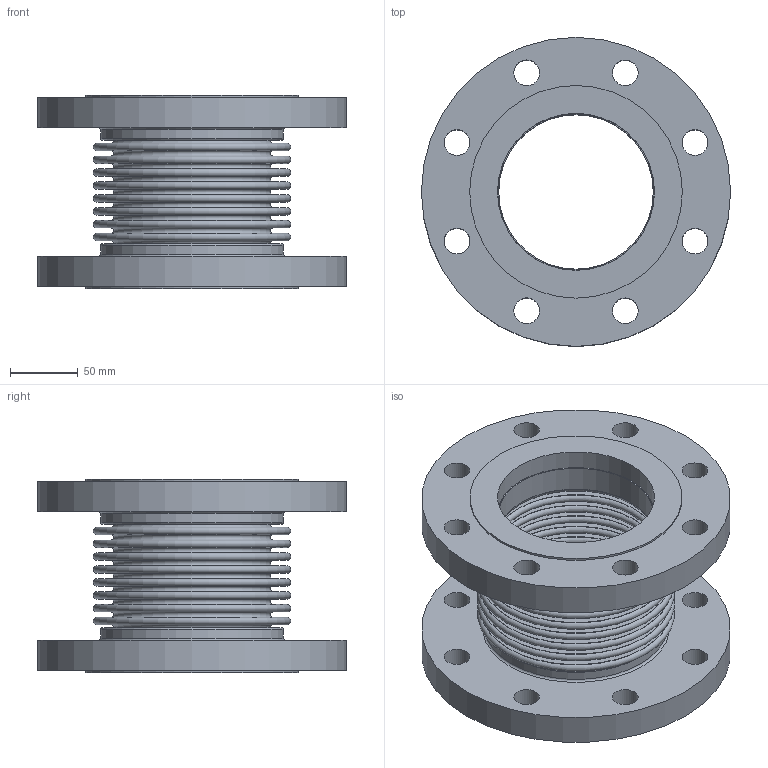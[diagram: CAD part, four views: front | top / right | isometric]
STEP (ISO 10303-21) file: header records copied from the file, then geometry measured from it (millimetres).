
FILE_DESCRIPTION(/* description */ ('EXPANSION JOINT,SINGLE, FLANGED ENDS,4 INCH NOMINAL','CAx-IF Rec.Pracs.---Representation and Presentation of Product Manufacturing Information (PMI)---4.0---2014-10-13'),/* implementation_level */ '2;1');
FILE_NAME(/* name */ 'US-04-8-150S-FLANGED ENDS.stp',/* time_stamp */ '2026-07-31T16:55:52-05:00',/* author */ ('Guadalupe'),/* organization */ (''),/* preprocessor_version */ 'ST-DEVELOPER v20.1',/* originating_system */ 'Autodesk Inventor 2026',/* authorisation */ '');
FILE_SCHEMA (('AP242_MANAGED_MODEL_BASED_3D_ENGINEERING_MIM_LF { 1 0 10303 442 2 1 4 }'));
Length unit declared in the file: inch
Products named in the file (3): 04-150S; 04-150S-02; 04-150S-01
Assembly tree (3 placements, depth 2):
  04-150S
    04-150S-02  x2
    04-150S-01
Bounding box: 228.6 x 228.6 x 142.75 mm (x, y, z)
Volume: 1455745.1 mm3; surface area: 461410.1 mm2
Topology: 5 solids, 5 shells, 112 faces, 198 edges, 132 vertices
Faces by surface type: plane 46, torus 38, cylinder 28
Full cylindrical faces by diameter (mm): 19.05 x16, 114.3 x2, 115.824 x2, 116.078 x2, 134.874 x2, 157.226 x2, 228.6 x2
Entity records: 2558 total; most frequent: DIRECTION 522, CARTESIAN_POINT 377, ORIENTED_EDGE 312, AXIS2_PLACEMENT_3D 253, EDGE_CURVE 156, EDGE_LOOP 152, CIRCLE 140, VERTEX_POINT 104
